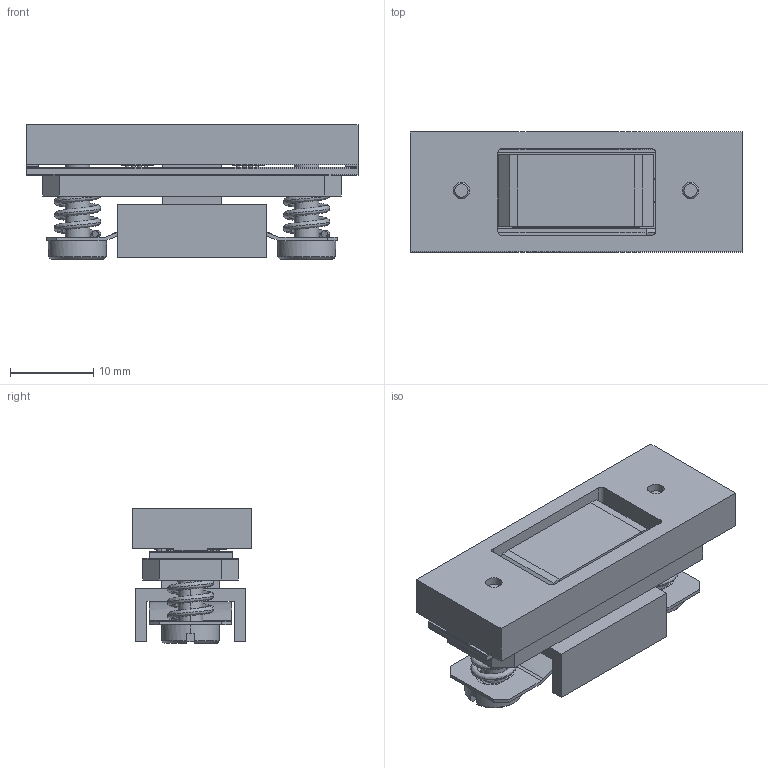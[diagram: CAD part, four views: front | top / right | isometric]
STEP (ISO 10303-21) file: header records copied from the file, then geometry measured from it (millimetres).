
FILE_DESCRIPTION (( 'STEP AP203' ), '1' );
FILE_NAME ('2513122-S310-DMD-Mounting-Concept3.STEP', '2013-03-18T19:38:16', ( '' ), ( '' ), 'SwSTEP 2.0', 'SolidWorks 2012', '' );
FILE_SCHEMA (( 'CONFIG_CONTROL_DESIGN' ));
Products named in the file (22): 2513114-S310-Pocket-Interface; S310-WXGA-STEP-Assy-w-pads; Symbolize-Pad; S310-STEP-window; S310-WXGA-STEP-pkg; Elec-Pad; 2513122-S310-DMD-Mounting-Concept3; 2512939-Comp; 2512939; 2513119-Hard_Board#3_Assy; 2513118-S310-Hard_Board#3; 2511350-heat-sink-C2; 2510984-Flat-Spring_v2; Spring; 2511351-Screw-Shoulder-M2-C2; 2513120-S310-Clamp-#3; 2513121-S310-Insulator#3; 2511139-Thermal-Pad; 2513117-S310-Flex#3-Assy; 2513116-S310-Stiffener#3; 2510978-Interposer; 2513115-S310-Flex#3
Assembly tree (125 placements, depth 3):
  2513122-S310-DMD-Mounting-Concept3
    S310-WXGA-STEP-Assy-w-pads
      Elec-Pad  x98
      S310-WXGA-STEP-pkg
      S310-STEP-window
      Symbolize-Pad
    2513114-S310-Pocket-Interface
    2513117-S310-Flex#3-Assy
      2513115-S310-Flex#3
      2510978-Interposer  x2
      2513116-S310-Stiffener#3
    2511139-Thermal-Pad
    2513121-S310-Insulator#3
    2513120-S310-Clamp-#3
    2511351-Screw-Shoulder-M2-C2  x2
    Spring  x2
    2510984-Flat-Spring_v2
    2511350-heat-sink-C2
    2513119-Hard_Board#3_Assy
      2513118-S310-Hard_Board#3
      2510978-Interposer  x2
    2512939  x2
    2512939-Comp  x2
Bounding box: 40 x 14.45 x 16.25 mm (x, y, z)
Volume: 5181.5 mm3; surface area: 9737.4 mm2
Topology: 122 solids, 122 shells, 4749 faces, 11046 edges, 7361 vertices
Faces by surface type: plane 3598, cylinder 1121, cone 18, bspline 12
Entity records: 56959 total; most frequent: CARTESIAN_POINT 11002, DIRECTION 8852, ORIENTED_EDGE 7938, EDGE_CURVE 3969, AXIS2_PLACEMENT_3D 3086, VECTOR 2680, LINE 2680, VERTEX_POINT 2643
